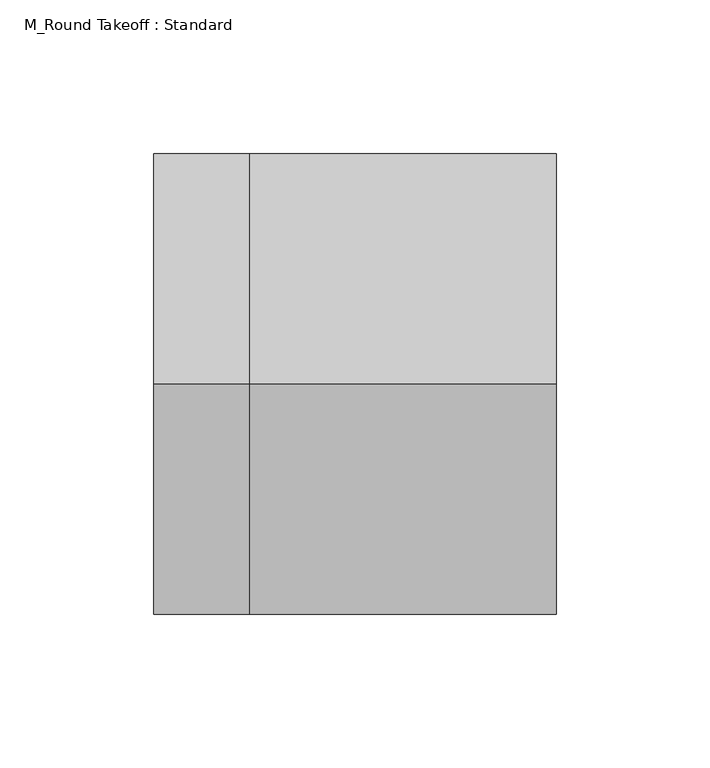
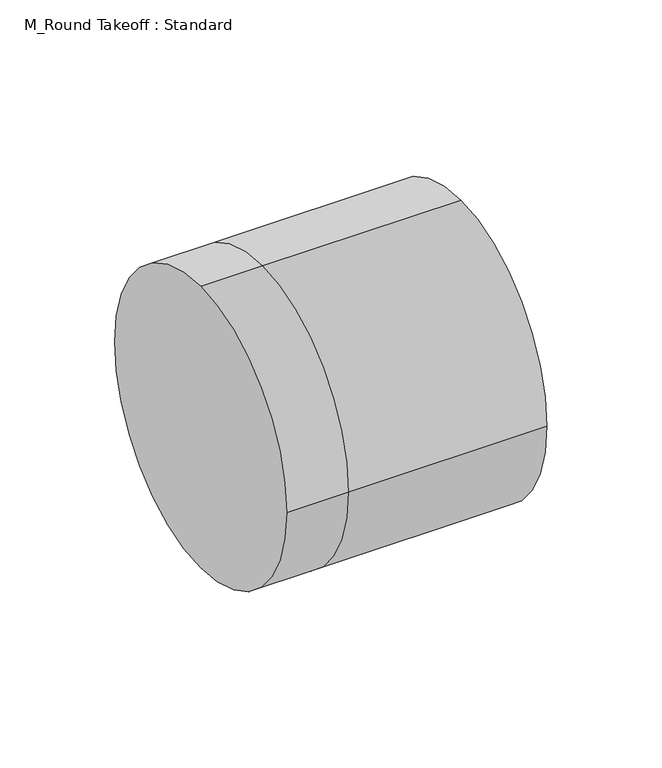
"""IFC4 building model written with IfcOpenShell, lengths in millimetres: duct fitting geometry, M_Round Takeoff : Standard."""

import ifcopenshell
import ifcopenshell.guid

model = None  # the IFC model being written
_history = None  # IfcOwnerHistory: only IFC2X3 demands one
_inside = {}  # id of a spatial element -> (the spatial element, [elements in it])
_under = {}  # id of a project, library or spatial element -> (it, [spatial elements below it])
_declared = {}  # id of a project -> (the project, [libraries it declares])
_typed = {}  # id of a type object -> (the type object, [elements of that type])
_made_of = {}  # id of a material, layer set ... -> (it, [elements and type objects made of it])


def new_model(schema):
    """Start an empty IFC model of exactly this schema.

    Asked for "IFC4X3", IfcOpenShell would pick the latest addendum, in which some entities
    have other attributes; the version numbers below select the first issue.
    IFC2X3 requires an IfcOwnerHistory on every rooted entity: one is made here for all.
    """
    global model, _history
    if schema == "IFC4X3":
        model = ifcopenshell.file(schema_version=(4, 3, 0, 0))
    else:
        model = ifcopenshell.file(schema=schema)
    _inside.clear()
    _under.clear()
    _declared.clear()
    _typed.clear()
    _made_of.clear()
    _history = None
    if model.schema == "IFC2X3":
        org = make("IfcOrganization", Name="unknown")
        user = make(
            "IfcPersonAndOrganization",
            ThePerson=make("IfcPerson", FamilyName="unknown"),
            TheOrganization=org,
        )
        app = make(
            "IfcApplication",
            ApplicationDeveloper=org,
            Version="unknown",
            ApplicationFullName="unknown",
            ApplicationIdentifier="unknown",
        )
        _history = make(
            "IfcOwnerHistory",
            OwningUser=user,
            OwningApplication=app,
            ChangeAction="ADDED",
            CreationDate=0,
        )
    return model


def make(cls, **values):
    """One entity of the class cls with the attributes given. An attribute that is None is left unset."""
    return model.create_entity(
        cls, **{name: value for name, value in values.items() if value is not None}
    )


def rooted(cls, **values):
    """An entity with a GlobalId (a new one), such as an element, a storey or a relation."""
    return make(cls, GlobalId=ifcopenshell.guid.new(), OwnerHistory=_history, **values)


def si_unit(unit_type, name, prefix=None):
    """IfcSIUnit, for example si_unit("LENGTHUNIT", "METRE", prefix="MILLI")."""
    return make("IfcSIUnit", UnitType=unit_type, Prefix=prefix, Name=name)


def assignment(units):
    """IfcUnitAssignment: the units of a project."""
    return None if units is None else make("IfcUnitAssignment", Units=units)


def point(xyz):
    """IfcCartesianPoint."""
    return None if xyz is None else make("IfcCartesianPoint", Coordinates=xyz)


def direction(xyz):
    """IfcDirection."""
    return None if xyz is None else make("IfcDirection", DirectionRatios=xyz)


def frame(location, z_axis=None, x_axis=None):
    """IfcAxis2Placement3D, a coordinate frame: its origin and axes. An axis left out is left unset."""
    return make(
        "IfcAxis2Placement3D",
        Location=point(location),
        Axis=direction(z_axis),
        RefDirection=direction(x_axis),
    )


def origin():
    """The frame at (0, 0, 0) with its axes left unset."""
    return frame((0.0, 0.0, 0.0))


def place(relative_to, where):
    """IfcLocalPlacement: puts the frame where relative to a parent placement (None: the world)."""
    return make(
        "IfcLocalPlacement", PlacementRelTo=relative_to, RelativePlacement=where
    )


def context(
    kind, dimensions, precision=None, world=None, true_north=None, identifier=None
):
    """IfcGeometricRepresentationContext, for example the 3D "Model" context."""
    return make(
        "IfcGeometricRepresentationContext",
        ContextIdentifier=identifier,
        ContextType=kind,
        CoordinateSpaceDimension=dimensions,
        Precision=precision,
        WorldCoordinateSystem=world,
        TrueNorth=true_north,
    )


def project(units=None, contexts=None):
    """IfcProject with its units and contexts."""
    return rooted(
        "IfcProject",
        Name="project",
        RepresentationContexts=contexts,
        UnitsInContext=assignment(units),
    )


def spatial(cls, under=None, at=None, **own):
    """A site, building, storey or space (cls), placed at a placement, below another one or the project."""
    s = rooted(cls, ObjectPlacement=at, **own)
    if under is not None:
        _under.setdefault(under.id(), (under, []))[1].append(s)
    return s


def circle_curve(where, radius):
    """IfcCircle in the frame where."""
    return make("IfcCircle", Position=where, Radius=radius)


def shape(context_of_items, identifier, shape_type, items):
    """IfcShapeRepresentation: the items that make up one representation, for example the "Body"."""
    return make(
        "IfcShapeRepresentation",
        ContextOfItems=context_of_items,
        RepresentationIdentifier=identifier,
        RepresentationType=shape_type,
        Items=items,
    )


def source(mapping_origin, context_of_items, identifier, shape_type, items):
    """IfcRepresentationMap: a shape defined once, which mapped items show again and again."""
    return make(
        "IfcRepresentationMap",
        MappingOrigin=mapping_origin,
        MappedRepresentation=shape(context_of_items, identifier, shape_type, items),
    )


def transform(
    local_origin,
    x_axis=None,
    y_axis=None,
    z_axis=None,
    scale=None,
    scale2=None,
    scale3=None,
    uniform=True,
):
    """IfcCartesianTransformationOperator3D, or its non-uniform kind. x_axis, y_axis, z_axis: its Axis1, 2, 3."""
    if uniform:
        return make(
            "IfcCartesianTransformationOperator3D",
            Axis1=direction(x_axis),
            Axis2=direction(y_axis),
            LocalOrigin=point(local_origin),
            Scale=scale,
            Axis3=direction(z_axis),
        )
    return make(
        "IfcCartesianTransformationOperator3DnonUniform",
        Axis1=direction(x_axis),
        Axis2=direction(y_axis),
        LocalOrigin=point(local_origin),
        Scale=scale,
        Axis3=direction(z_axis),
        Scale2=scale2,
        Scale3=scale3,
    )


def mapped(mapping_source, mapping_target):
    """IfcMappedItem: shows the shape of a source again, moved by a transform."""
    return make(
        "IfcMappedItem", MappingSource=mapping_source, MappingTarget=mapping_target
    )


def made_of(thing, what):
    """Note that an element or type object is made of a material, layer set ...; save() writes the relation."""
    if what is not None:
        _made_of.setdefault(what.id(), (what, []))[1].append(thing)
    return thing


def element(
    cls,
    number,
    at=None,
    inside=None,
    cuts=None,
    type_object=None,
    material=None,
    context=None,
    identifier="Body",
    shape_type=None,
    held_by="IfcProductDefinitionShape",
    body=None,
    shapes=None,
    **own,
):
    """One element of the class cls, such as IfcWall. Its Tag is "e" and its number.

    at: its placement. inside: the storey or other place that contains it. cuts: it is an
    opening in that element (IfcRelVoidsElement). A single representation is given by context,
    identifier, shape_type and body (its items); several are given by shapes. held_by: the class
    of the entity that holds the representations. save() writes the other relations.
    """
    e = rooted(cls, Tag="e%d" % number, ObjectPlacement=at, **own)
    if body is not None:
        shapes = [shape(context, identifier, shape_type, body)]
    if shapes is not None:
        e.Representation = make(held_by, Representations=shapes)
    if inside is not None:
        _inside.setdefault(inside.id(), (inside, []))[1].append(e)
    if cuts is not None:
        rooted(
            "IfcRelVoidsElement", RelatingBuildingElement=cuts, RelatedOpeningElement=e
        )
    if type_object is not None:
        _typed.setdefault(type_object.id(), (type_object, []))[1].append(e)
    return made_of(e, material)


def aggregate(whole, parts):
    """IfcRelAggregates: a whole, such as a stair, and the parts it consists of."""
    return rooted("IfcRelAggregates", RelatingObject=whole, RelatedObjects=parts)


def save(model, path):
    """Write the relations noted so far, then the file.

    IfcRelAggregates (storeys below a building ...), IfcRelContainedInSpatialStructure (elements
    in a storey), IfcRelDefinesByType, IfcRelAssociatesMaterial and IfcRelDeclares: one each for
    every whole, place, type object, material and project.
    """
    for whole, parts in _under.values():
        aggregate(whole, parts)
    for where, things in _inside.values():
        rooted(
            "IfcRelContainedInSpatialStructure",
            RelatedElements=things,
            RelatingStructure=where,
        )
    for kind, things in _typed.values():
        rooted("IfcRelDefinesByType", RelatedObjects=things, RelatingType=kind)
    for what, things in _made_of.values():
        rooted("IfcRelAssociatesMaterial", RelatedObjects=things, RelatingMaterial=what)
    for by, libraries in _declared.values():
        rooted("IfcRelDeclares", RelatingContext=by, RelatedDefinitions=libraries)
    model.write(path)


def plane_surface(at):
    """IfcPlane: the flat surface through the origin of the frame at, square to its z axis."""
    return make("IfcPlane", Position=at)


def cylinder_surface(at, radius):
    """IfcCylindricalSurface: all points at the distance radius from the z axis of the frame at."""
    return make("IfcCylindricalSurface", Position=at, Radius=radius)


def advanced_brep(points, edges, surfaces, faces):
    """IfcAdvancedBrep: a solid bounded by faces that lie on surfaces and meet in shared edges.

    An edge is (start, end): straight between two places in points (the first is 0);
    or (start, end, curve); or (start, end, curve, False) where it runs against its curve.
    A face is (place in surfaces, loops), or (place, loops, False) where it looks against
    its surface's normal. A loop lists edges by number (the first is 1), with a minus sign
    where the edge is run from its end to its start. The first loop is the outer one.
    """
    corners = [point(p) for p in points]
    vertices = [make("IfcVertexPoint", VertexGeometry=c) for c in corners]
    made = []
    for start, end, *more in edges:
        made.append(
            make(
                "IfcEdgeCurve",
                EdgeStart=vertices[start],
                EdgeEnd=vertices[end],
                EdgeGeometry=more[0] if more else make("IfcPolyline", Points=[corners[start], corners[end]]),
                SameSense=more[1] if len(more) > 1 else True,
            )
        )
    hull = []
    for where, loops, *sense in faces:
        bounds = []
        for j, loop in enumerate(loops):
            ring = [make("IfcOrientedEdge", EdgeElement=made[abs(k) - 1], Orientation=k > 0) for k in loop]
            bounds.append(
                make(
                    "IfcFaceOuterBound" if j == 0 else "IfcFaceBound",
                    Bound=make("IfcEdgeLoop", EdgeList=ring),
                    Orientation=True,
                )
            )
        hull.append(make("IfcAdvancedFace", Bounds=bounds, FaceSurface=surfaces[where], SameSense=sense[0] if sense else True))
    return make("IfcAdvancedBrep", Outer=make("IfcClosedShell", CfsFaces=hull))


def m_round_takeoff_standard_f13bc850(model_context):
    return source(origin(), model_context, "Body", "AdvancedBrep", [
        advanced_brep(
        [(-31.0965186, 0.0, 75.0), (-31.0965186, 75.0, 0.0), (-31.0965186, 0.0, -75.0), (-31.0965186, -75.0, 0.0), (0.0, 0.0, 75.0), (0.0, 75.0, 0.0), (0.0, 0.0, -75.0), (0.0, -75.0, 0.0), (100.0, 0.0, 75.0), (100.0, -75.0, 0.0), (100.0, 0.0, -75.0), (100.0, 75.0, 0.0)],
        [
            (0, 1, circle_curve(frame((-31.0965186, 0.0, 0.0), z_axis=(-1.0, 0.0, 0.0), x_axis=(0.0, 1.0, 0.0)), 75.0)),
            (1, 2, circle_curve(frame((-31.0965186, 0.0, 0.0), z_axis=(-1.0, 0.0, 0.0), x_axis=(0.0, 1.0, 0.0)), 75.0)),
            (2, 3, circle_curve(frame((-31.0965186, 0.0, 0.0), z_axis=(-1.0, 0.0, 0.0), x_axis=(0.0, 1.0, 0.0)), 75.0)),
            (3, 0, circle_curve(frame((-31.0965186, 0.0, 0.0), z_axis=(-1.0, 0.0, 0.0), x_axis=(0.0, 1.0, 0.0)), 75.0)),
            (0, 4),
            (4, 5, circle_curve(frame((0.0, 0.0, 0.0), z_axis=(-1.0, 0.0, 0.0), x_axis=(0.0, 1.0, 0.0)), 75.0)),
            (5, 1),
            (5, 6, circle_curve(frame((0.0, 0.0, 0.0), z_axis=(-1.0, 0.0, 0.0), x_axis=(0.0, 1.0, 0.0)), 75.0)),
            (6, 2),
            (6, 7, circle_curve(frame((0.0, 0.0, 0.0), z_axis=(-1.0, 0.0, 0.0), x_axis=(0.0, 1.0, 0.0)), 75.0)),
            (7, 3),
            (7, 4, circle_curve(frame((0.0, 0.0, 0.0), z_axis=(-1.0, 0.0, 0.0), x_axis=(0.0, 1.0, 0.0)), 75.0)),
            (8, 9, circle_curve(frame((100.0, 0.0, 0.0), z_axis=(1.0, 0.0, 0.0), x_axis=(0.0, 1.0, 0.0)), 75.0)),
            (9, 10, circle_curve(frame((100.0, 0.0, 0.0), z_axis=(1.0, 0.0, 0.0), x_axis=(0.0, 1.0, 0.0)), 75.0)),
            (10, 11, circle_curve(frame((100.0, 0.0, 0.0), z_axis=(1.0, 0.0, 0.0), x_axis=(0.0, 1.0, 0.0)), 75.0)),
            (11, 8, circle_curve(frame((100.0, 0.0, 0.0), z_axis=(1.0, 0.0, 0.0), x_axis=(0.0, 1.0, 0.0)), 75.0)),
            (11, 5),
            (4, 8),
            (10, 6),
            (9, 7),
        ],
        [
            plane_surface(frame((-31.0965186, 0.0, 0.0), z_axis=(-1.0, 0.0, 0.0), x_axis=(0.0, 0.0, 1.0))),
            cylinder_surface(frame((-31.0965186, 0.0, 0.0), z_axis=(-1.0, 0.0, 0.0), x_axis=(0.0, 1.0, 0.0)), 75.0),
            plane_surface(frame((100.0, 0.0, 0.0), z_axis=(1.0, 0.0, 0.0), x_axis=(0.0, 0.0, 1.0))),
            cylinder_surface(frame((0.0, 0.0, 0.0), z_axis=(-1.0, 0.0, 0.0), x_axis=(0.0, 1.0, 0.0)), 75.0),
        ],
        [
            (0, [[1, 2, 3, 4]]),
            (1, [[-1, 5, 6, 7]]),
            (1, [[-2, -7, 8, 9]]),
            (1, [[-3, -9, 10, 11]]),
            (1, [[-4, -11, 12, -5]]),
            (2, [[13, 14, 15, 16]]),
            (3, [[-16, 17, -6, 18]]),
            (3, [[-15, 19, -8, -17]]),
            (3, [[-14, 20, -10, -19]]),
            (3, [[-13, -18, -12, -20]]),
        ],
    ),
        advanced_brep(
        [(100.0, 0.0, 75.0), (100.0, -75.0, 0.0), (100.0, 0.0, -75.0), (100.0, 75.0, 0.0), (0.0, 75.0, 0.0), (0.0, 0.0, 75.0), (0.0, 0.0, -75.0), (0.0, -75.0, 0.0), (-31.0965186, 0.0, 75.0), (-31.0965186, 75.0, 0.0), (-31.0965186, 0.0, -75.0), (-31.0965186, -75.0, 0.0)],
        [
            (0, 1, circle_curve(frame((100.0, 0.0, 0.0), z_axis=(1.0, 0.0, 0.0), x_axis=(0.0, 1.0, 0.0)), 75.0)),
            (1, 2, circle_curve(frame((100.0, 0.0, 0.0), z_axis=(1.0, 0.0, 0.0), x_axis=(0.0, 1.0, 0.0)), 75.0)),
            (2, 3, circle_curve(frame((100.0, 0.0, 0.0), z_axis=(1.0, 0.0, 0.0), x_axis=(0.0, 1.0, 0.0)), 75.0)),
            (3, 0, circle_curve(frame((100.0, 0.0, 0.0), z_axis=(1.0, 0.0, 0.0), x_axis=(0.0, 1.0, 0.0)), 75.0)),
            (3, 4),
            (4, 5, circle_curve(frame((0.0, 0.0, 0.0), z_axis=(1.0, 0.0, 0.0), x_axis=(0.0, 1.0, 0.0)), 75.0)),
            (5, 0),
            (2, 6),
            (6, 4, circle_curve(frame((0.0, 0.0, 0.0), z_axis=(1.0, 0.0, 0.0), x_axis=(0.0, 1.0, 0.0)), 75.0)),
            (1, 7),
            (7, 6, circle_curve(frame((0.0, 0.0, 0.0), z_axis=(1.0, 0.0, 0.0), x_axis=(0.0, 1.0, 0.0)), 75.0)),
            (5, 7, circle_curve(frame((0.0, 0.0, 0.0), z_axis=(1.0, 0.0, 0.0), x_axis=(0.0, 1.0, 0.0)), 75.0)),
            (8, 9, circle_curve(frame((-31.0965186, 0.0, 0.0), z_axis=(-1.0, 0.0, 0.0), x_axis=(0.0, 1.0, 0.0)), 75.0)),
            (9, 10, circle_curve(frame((-31.0965186, 0.0, 0.0), z_axis=(-1.0, 0.0, 0.0), x_axis=(0.0, 1.0, 0.0)), 75.0)),
            (10, 11, circle_curve(frame((-31.0965186, 0.0, 0.0), z_axis=(-1.0, 0.0, 0.0), x_axis=(0.0, 1.0, 0.0)), 75.0)),
            (11, 8, circle_curve(frame((-31.0965186, 0.0, 0.0), z_axis=(-1.0, 0.0, 0.0), x_axis=(0.0, 1.0, 0.0)), 75.0)),
            (8, 5),
            (4, 9),
            (6, 10),
            (7, 11),
        ],
        [
            plane_surface(frame((100.0, 0.0, 0.0), z_axis=(1.0, 0.0, 0.0), x_axis=(0.0, 0.0, 1.0))),
            cylinder_surface(frame((0.0, 0.0, 0.0), z_axis=(-1.0, 0.0, 0.0), x_axis=(0.0, 1.0, 0.0)), 75.0),
            plane_surface(frame((-31.0965186, 0.0, 0.0), z_axis=(-1.0, 0.0, 0.0), x_axis=(0.0, 0.0, 1.0))),
            cylinder_surface(frame((-31.0965186, 0.0, 0.0), z_axis=(-1.0, 0.0, 0.0), x_axis=(0.0, 1.0, 0.0)), 75.0),
        ],
        [
            (0, [[1, 2, 3, 4]]),
            (1, [[-4, 5, 6, 7]]),
            (1, [[-3, 8, 9, -5]]),
            (1, [[-2, 10, 11, -8]]),
            (1, [[-1, -7, 12, -10]]),
            (2, [[13, 14, 15, 16]]),
            (3, [[-13, 17, -6, 18]]),
            (3, [[-14, -18, -9, 19]]),
            (3, [[-15, -19, -11, 20]]),
            (3, [[-16, -20, -12, -17]]),
        ],
    ),
        advanced_brep(
        [(-31.0965186, 0.0, 75.0), (-31.0965186, 75.0, 0.0), (-31.0965186, 0.0, -75.0), (-31.0965186, -75.0, 0.0), (0.0, 0.0, 75.0), (0.0, 75.0, 0.0), (0.0, 0.0, -75.0), (0.0, -75.0, 0.0), (100.0, 0.0, 75.0), (100.0, -75.0, 0.0), (100.0, 0.0, -75.0), (100.0, 75.0, 0.0)],
        [
            (0, 1, circle_curve(frame((-31.0965186, 0.0, 0.0), z_axis=(-1.0, 0.0, 0.0), x_axis=(0.0, 1.0, 0.0)), 75.0)),
            (1, 2, circle_curve(frame((-31.0965186, 0.0, 0.0), z_axis=(-1.0, 0.0, 0.0), x_axis=(0.0, 1.0, 0.0)), 75.0)),
            (2, 3, circle_curve(frame((-31.0965186, 0.0, 0.0), z_axis=(-1.0, 0.0, 0.0), x_axis=(0.0, 1.0, 0.0)), 75.0)),
            (3, 0, circle_curve(frame((-31.0965186, 0.0, 0.0), z_axis=(-1.0, 0.0, 0.0), x_axis=(0.0, 1.0, 0.0)), 75.0)),
            (0, 4),
            (4, 5, circle_curve(frame((0.0, 0.0, 0.0), z_axis=(-1.0, 0.0, 0.0), x_axis=(0.0, 1.0, 0.0)), 75.0)),
            (5, 1),
            (5, 6, circle_curve(frame((0.0, 0.0, 0.0), z_axis=(-1.0, 0.0, 0.0), x_axis=(0.0, 1.0, 0.0)), 75.0)),
            (6, 2),
            (6, 7, circle_curve(frame((0.0, 0.0, 0.0), z_axis=(-1.0, 0.0, 0.0), x_axis=(0.0, 1.0, 0.0)), 75.0)),
            (7, 3),
            (7, 4, circle_curve(frame((0.0, 0.0, 0.0), z_axis=(-1.0, 0.0, 0.0), x_axis=(0.0, 1.0, 0.0)), 75.0)),
            (8, 9, circle_curve(frame((100.0, 0.0, 0.0), z_axis=(1.0, 0.0, 0.0), x_axis=(0.0, 1.0, 0.0)), 75.0)),
            (9, 10, circle_curve(frame((100.0, 0.0, 0.0), z_axis=(1.0, 0.0, 0.0), x_axis=(0.0, 1.0, 0.0)), 75.0)),
            (10, 11, circle_curve(frame((100.0, 0.0, 0.0), z_axis=(1.0, 0.0, 0.0), x_axis=(0.0, 1.0, 0.0)), 75.0)),
            (11, 8, circle_curve(frame((100.0, 0.0, 0.0), z_axis=(1.0, 0.0, 0.0), x_axis=(0.0, 1.0, 0.0)), 75.0)),
            (11, 5),
            (4, 8),
            (10, 6),
            (9, 7),
        ],
        [
            plane_surface(frame((-31.0965186, 0.0, 0.0), z_axis=(-1.0, 0.0, 0.0), x_axis=(0.0, 0.0, 1.0))),
            cylinder_surface(frame((-31.0965186, 0.0, 0.0), z_axis=(-1.0, 0.0, 0.0), x_axis=(0.0, 1.0, 0.0)), 75.0),
            plane_surface(frame((100.0, 0.0, 0.0), z_axis=(1.0, 0.0, 0.0), x_axis=(0.0, 0.0, 1.0))),
            cylinder_surface(frame((0.0, 0.0, 0.0), z_axis=(-1.0, 0.0, 0.0), x_axis=(0.0, 1.0, 0.0)), 75.0),
        ],
        [
            (0, [[1, 2, 3, 4]]),
            (1, [[-1, 5, 6, 7]]),
            (1, [[-2, -7, 8, 9]]),
            (1, [[-3, -9, 10, 11]]),
            (1, [[-4, -11, 12, -5]]),
            (2, [[13, 14, 15, 16]]),
            (3, [[-16, 17, -6, 18]]),
            (3, [[-15, 19, -8, -17]]),
            (3, [[-14, 20, -10, -19]]),
            (3, [[-13, -18, -12, -20]]),
        ],
    ),
    ])


if __name__ == "__main__":
    model = new_model("IFC4")
    model_context = context("Model", 3, world=origin())
    ifc_project = project(units=[si_unit("LENGTHUNIT", "METRE", prefix="MILLI")], contexts=[model_context])
    site = spatial("IfcSite", under=ifc_project)
    building = spatial("IfcBuilding", under=site)
    placement = place(None, origin())
    m_round_takeoff_standard_shape = m_round_takeoff_standard_f13bc850(model_context)
    element("IfcDuctFitting", 1, ObjectType="M_Round Takeoff : Standard", at=placement, inside=building, context=model_context, shape_type="MappedRepresentation", body=[
        mapped(m_round_takeoff_standard_shape, transform((0.0, 0.0, 0.0), x_axis=(1.0, 0.0, 0.0), y_axis=(0.0, 1.0, 0.0), z_axis=(0.0, 0.0, 1.0))),
    ])
    save(model, "model.ifc")
